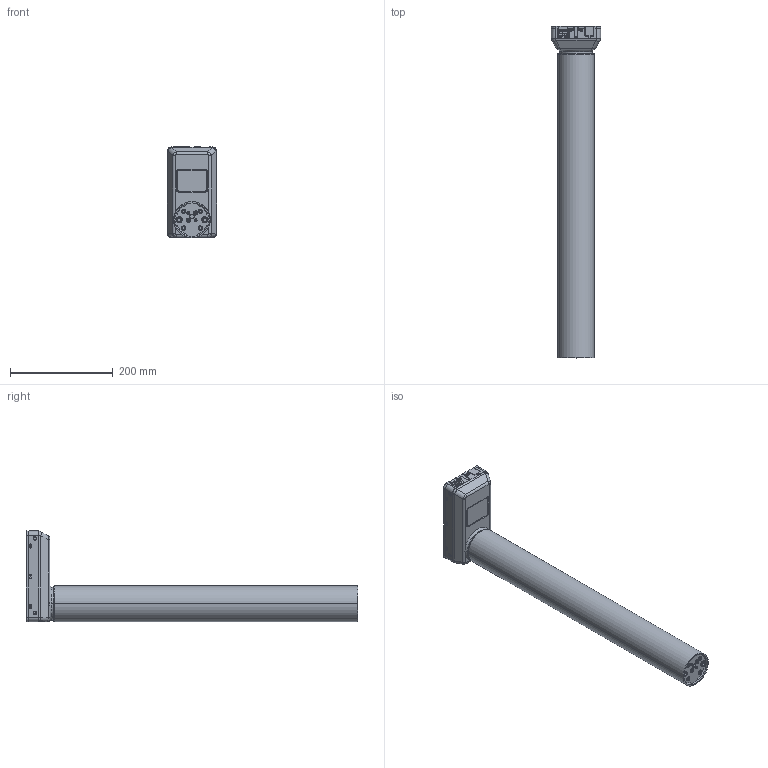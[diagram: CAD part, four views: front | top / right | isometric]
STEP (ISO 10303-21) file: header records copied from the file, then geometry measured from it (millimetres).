
FILE_DESCRIPTION((''),'2;1');
FILE_NAME('1040WTEST_ASM','2021-07-13T10:44:44',('frj'),(''),'CREO PARAMETRIC BY PTC INC, 2020454','CREO PARAMETRIC BY PTC INC, 2020454','');
FILE_SCHEMA(('AUTOMOTIVE_DESIGN { 1 0 10303 214 1 1 1 1 }'));
Length unit declared in the file: millimetre
Products named in the file (4): 1040W7901-03-TRIM; 1040W7901-01_STEP; COMMON; 1040WTEST_ASM
Assembly tree (3 placements, depth 2):
  1040WTEST_ASM
    1040W7901-03-TRIM
    1040W7901-01_STEP
    COMMON
Bounding box: 96.5 x 645 x 178.6 mm (x, y, z)
Volume: 4823069.7 mm3; surface area: 323947.2 mm2
Topology: 3 solids, 9 shells, 964 faces, 2573 edges, 1657 vertices
Faces by surface type: plane 401, cylinder 377, torus 96, bspline 62, cone 14, sphere 14
Entity records: 37143 total; most frequent: CARTESIAN_POINT 11810, ORIENTED_EDGE 5118, DIRECTION 5036, EDGE_CURVE 2559, AXIS2_PLACEMENT_3D 1867, VERTEX_POINT 1657, VECTOR 1302, LINE 1302
